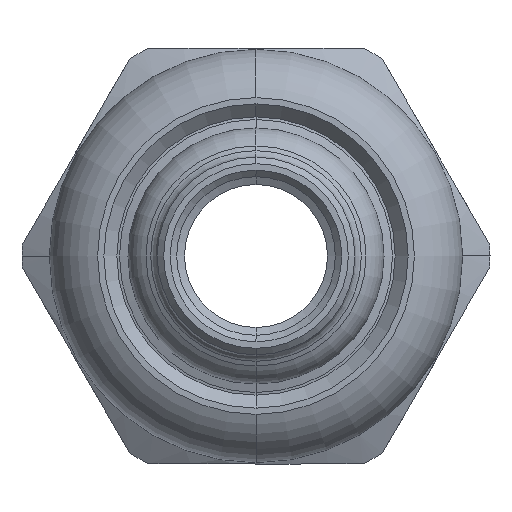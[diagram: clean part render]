
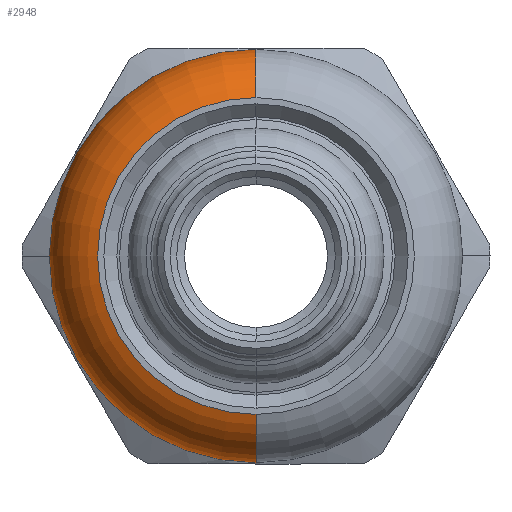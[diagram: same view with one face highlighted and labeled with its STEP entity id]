
A CAD part, left-side view. The second image highlights one B-rep face of the part: STEP entity #2948.
In plain terms, the highlighted toroidal (fillet/blend) face has major radius 10.4 mm and minor radius 5.5 mm.
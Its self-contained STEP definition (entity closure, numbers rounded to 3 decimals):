
#18 = AXIS2_PLACEMENT_3D ( 'NONE', #2110, #1723, #2470 ) ;
#294 = ORIENTED_EDGE ( 'NONE', *, *, #1982, .F. ) ;
#399 = VERTEX_POINT ( 'NONE', #1885 ) ;
#613 = ORIENTED_EDGE ( 'NONE', *, *, #1326, .T. ) ;
#682 = CARTESIAN_POINT ( 'NONE',  ( 10.598, 0., 15.9 ) ) ;
#723 = DIRECTION ( 'NONE',  ( -1., 0., 0. ) ) ;
#764 = VERTEX_POINT ( 'NONE', #682 ) ;
#878 = DIRECTION ( 'NONE',  ( -1., 0., 0. ) ) ;
#1046 = CIRCLE ( 'NONE', #4222, 12.185 ) ;
#1110 = EDGE_LOOP ( 'NONE', ( #613, #3384, #2298, #294, #3004 ) ) ;
#1193 = CIRCLE ( 'NONE', #18, 5.5 ) ;
#1250 = FACE_OUTER_BOUND ( 'NONE', #1110, .T. ) ;
#1326 = EDGE_CURVE ( 'NONE', #2717, #3804, #1046, .T. ) ;
#1436 = AXIS2_PLACEMENT_3D ( 'NONE', #2827, #723, #3192 ) ;
#1460 = DIRECTION ( 'NONE',  ( -1., 0., 0. ) ) ;
#1528 = CARTESIAN_POINT ( 'NONE',  ( 15.8, 0., -12.185 ) ) ;
#1723 = DIRECTION ( 'NONE',  ( 0., -1., 0. ) ) ;
#1811 = CARTESIAN_POINT ( 'NONE',  ( 10.598, 0., 0. ) ) ;
#1871 = DIRECTION ( 'NONE',  ( 0., 0., 1. ) ) ;
#1885 = CARTESIAN_POINT ( 'NONE',  ( 10.598, 0., -15.9 ) ) ;
#1982 = EDGE_CURVE ( 'NONE', #764, #2857, #4574, .T. ) ;
#2110 = CARTESIAN_POINT ( 'NONE',  ( 10.598, 0., 10.4 ) ) ;
#2298 = ORIENTED_EDGE ( 'NONE', *, *, #4219, .F. ) ;
#2311 = CARTESIAN_POINT ( 'NONE',  ( 10.598, 0., -10.4 ) ) ;
#2470 = DIRECTION ( 'NONE',  ( 0., 0., -1. ) ) ;
#2543 = AXIS2_PLACEMENT_3D ( 'NONE', #2615, #3003, #3986 ) ;
#2615 = CARTESIAN_POINT ( 'NONE',  ( 10.598, 0., 0. ) ) ;
#2717 = VERTEX_POINT ( 'NONE', #3393 ) ;
#2727 = AXIS2_PLACEMENT_3D ( 'NONE', #2311, #2987, #4257 ) ;
#2827 = CARTESIAN_POINT ( 'NONE',  ( 10.598, 0., 0. ) ) ;
#2857 = VERTEX_POINT ( 'NONE', #4392 ) ;
#2948 = ADVANCED_FACE ( 'NONE', ( #1250 ), #3120, .T. ) ;
#2987 = DIRECTION ( 'NONE',  ( 0., 1., 0. ) ) ;
#3003 = DIRECTION ( 'NONE',  ( -1., 0., 0. ) ) ;
#3004 = ORIENTED_EDGE ( 'NONE', *, *, #4189, .F. ) ;
#3120 = TOROIDAL_SURFACE ( 'NONE', #4479, 10.4, 5.5 ) ;
#3178 = CIRCLE ( 'NONE', #2727, 5.5 ) ;
#3192 = DIRECTION ( 'NONE',  ( 0., 0., 1. ) ) ;
#3205 = EDGE_CURVE ( 'NONE', #3804, #399, #3178, .T. ) ;
#3384 = ORIENTED_EDGE ( 'NONE', *, *, #3205, .T. ) ;
#3393 = CARTESIAN_POINT ( 'NONE',  ( 15.8, 0., 12.185 ) ) ;
#3564 = CARTESIAN_POINT ( 'NONE',  ( 15.8, 0., 0. ) ) ;
#3785 = CIRCLE ( 'NONE', #1436, 15.9 ) ;
#3804 = VERTEX_POINT ( 'NONE', #1528 ) ;
#3919 = DIRECTION ( 'NONE',  ( 0., 0., 1. ) ) ;
#3986 = DIRECTION ( 'NONE',  ( 0., 0., 1. ) ) ;
#4189 = EDGE_CURVE ( 'NONE', #2717, #764, #1193, .T. ) ;
#4219 = EDGE_CURVE ( 'NONE', #2857, #399, #3785, .T. ) ;
#4222 = AXIS2_PLACEMENT_3D ( 'NONE', #3564, #1460, #3919 ) ;
#4257 = DIRECTION ( 'NONE',  ( 0., 0., 1. ) ) ;
#4392 = CARTESIAN_POINT ( 'NONE',  ( 10.598, 15.9, 0. ) ) ;
#4479 = AXIS2_PLACEMENT_3D ( 'NONE', #1811, #878, #1871 ) ;
#4574 = CIRCLE ( 'NONE', #2543, 15.9 ) ;
